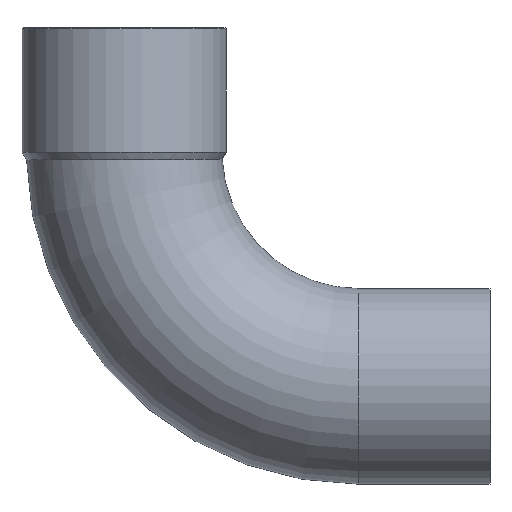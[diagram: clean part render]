
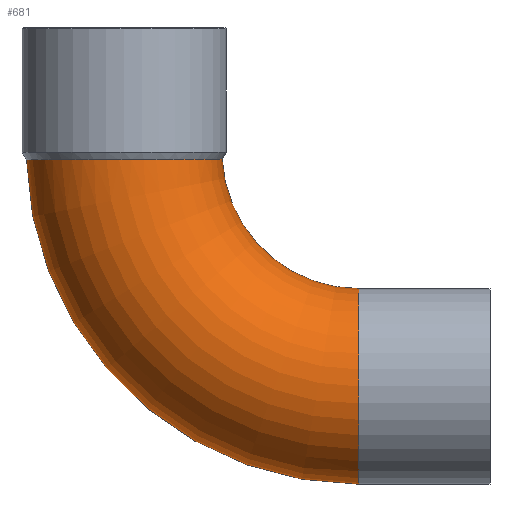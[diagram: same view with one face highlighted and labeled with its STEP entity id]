
A CAD part, front view. The second image highlights one B-rep face of the part: STEP entity #681.
In plain terms, the highlighted toroidal (fillet/blend) face has major radius 64.8 mm and minor radius 27 mm.
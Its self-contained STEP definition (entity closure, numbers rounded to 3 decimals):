
#49=CARTESIAN_POINT('',(-69.737,0.,-2.248));
#50=VERTEX_POINT('',#49);
#51=CARTESIAN_POINT('',(22.035,0.,-91.8));
#52=VERTEX_POINT('',#51);
#53=CARTESIAN_POINT('',(22.035,0.,0.0));
#54=DIRECTION('',(0.0,-1.0,0.0));
#55=DIRECTION('',(0.0,0.0,-1.0));
#56=AXIS2_PLACEMENT_3D('',#53,#54,#55);
#57=CIRCLE('',#56,91.8);
#58=EDGE_CURVE('',#50,#52,#57,.T.);
#60=CARTESIAN_POINT('',(-15.707,0.,-2.099));
#61=VERTEX_POINT('',#60);
#85=CARTESIAN_POINT('',(22.035,0.,-37.8));
#86=VERTEX_POINT('',#85);
#87=CARTESIAN_POINT('',(22.035,0.,0.0));
#88=DIRECTION('',(0.0,1.0,0.0));
#89=DIRECTION('',(0.0,0.0,-1.0));
#90=AXIS2_PLACEMENT_3D('',#87,#88,#89);
#91=CIRCLE('',#90,37.8);
#92=EDGE_CURVE('',#86,#61,#91,.T.);
#212=CARTESIAN_POINT('',(-15.707,0.,-2.099));
#213=CARTESIAN_POINT('',(-15.707,-0.234,-2.099));
#214=CARTESIAN_POINT('',(-15.71,-0.468,-2.099));
#215=CARTESIAN_POINT('',(-15.807,-4.216,-2.1));
#216=CARTESIAN_POINT('',(-16.585,-7.677,-2.104));
#217=CARTESIAN_POINT('',(-19.424,-14.111,-2.119));
#218=CARTESIAN_POINT('',(-21.461,-17.021,-2.129));
#219=CARTESIAN_POINT('',(-26.535,-21.898,-2.151));
#220=CARTESIAN_POINT('',(-29.526,-23.818,-2.162));
#221=CARTESIAN_POINT('',(-36.073,-26.403,-2.183));
#222=CARTESIAN_POINT('',(-39.567,-27.044,-2.192));
#223=CARTESIAN_POINT('',(-46.604,-26.951,-2.209));
#224=CARTESIAN_POINT('',(-50.079,-26.218,-2.216));
#225=CARTESIAN_POINT('',(-56.55,-23.462,-2.228));
#226=CARTESIAN_POINT('',(-59.486,-21.465,-2.233));
#227=CARTESIAN_POINT('',(-64.425,-16.46,-2.24));
#228=CARTESIAN_POINT('',(-66.382,-13.5,-2.243));
#229=CARTESIAN_POINT('',(-69.051,-6.996,-2.247));
#230=CARTESIAN_POINT('',(-69.737,-3.515,-2.248));
#231=CARTESIAN_POINT('',(-69.737,0.,-2.248));
#232=B_SPLINE_CURVE_WITH_KNOTS('',3,(#212,#213,#214,#215,#216,#217,#218,#219,#220,#221,#222,#223,#224,#225,#226,#227,#228,#229,#230,#231),.UNSPECIFIED.,.F.,.U.,(4,2,2,2,2,2,2,2,2,4),(-8.511,-8.441,-7.386,-6.331,-5.275,-4.219,-3.164,-2.109,-1.054,0.0),.UNSPECIFIED.);
#233=EDGE_CURVE('',#61,#50,#232,.T.);
#537=CARTESIAN_POINT('',(22.035,0.,-64.8));
#538=DIRECTION('',(-1.0,0.0,0.0));
#539=DIRECTION('',(0.0,0.0,-1.0));
#540=AXIS2_PLACEMENT_3D('',#537,#538,#539);
#541=CIRCLE('',#540,27.0);
#542=EDGE_CURVE('',#52,#86,#541,.T.);
#670=CARTESIAN_POINT('',(22.035,0.,0.0));
#671=DIRECTION('',(0.0,-1.0,0.0));
#672=DIRECTION('',(0.0,0.0,-1.0));
#673=AXIS2_PLACEMENT_3D('',#670,#671,#672);
#674=TOROIDAL_SURFACE('',#673,64.8,27.0);
#675=ORIENTED_EDGE('',*,*,#58,.T.);
#676=ORIENTED_EDGE('',*,*,#542,.T.);
#677=ORIENTED_EDGE('',*,*,#92,.T.);
#678=ORIENTED_EDGE('',*,*,#233,.T.);
#679=EDGE_LOOP('',(#675,#676,#677,#678));
#680=FACE_OUTER_BOUND('',#679,.T.);
#681=ADVANCED_FACE('',(#680),#674,.T.);
